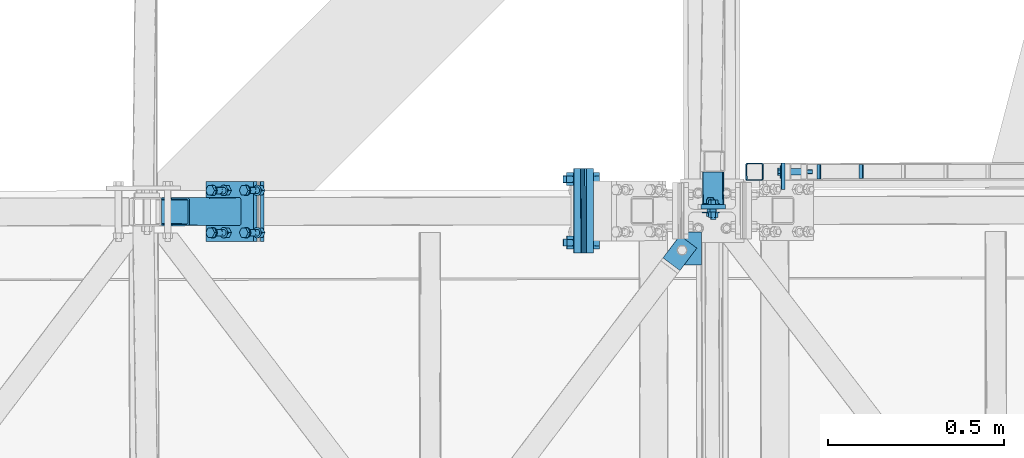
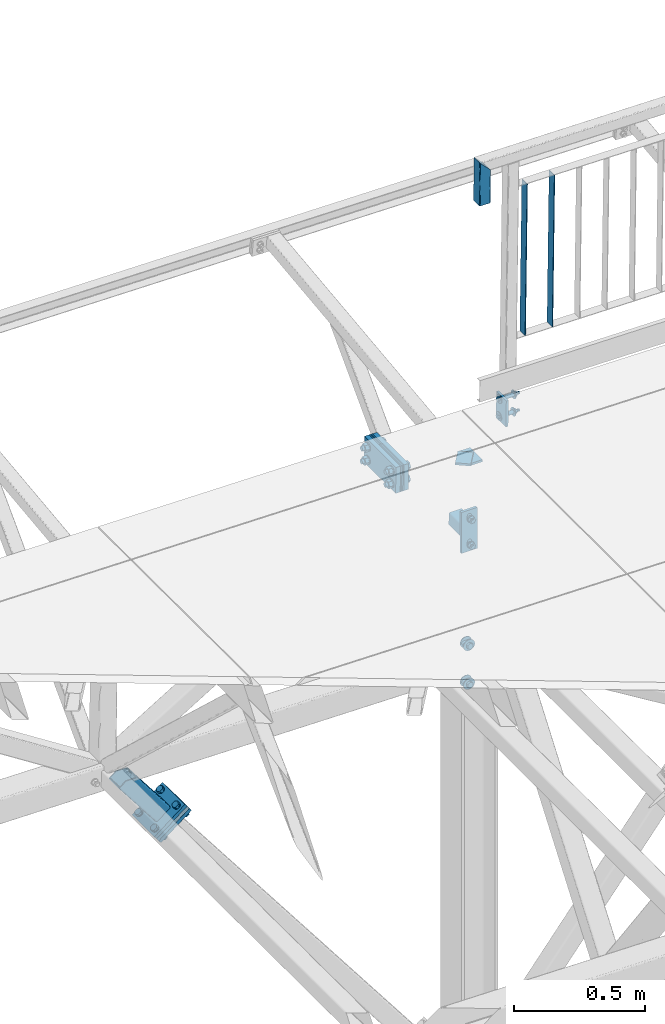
# One storey, part 105 of 169: 16 discrete accessories, 5 mechanical fasteners, 9 elements without a shape of their own.
"""IFC2X3 building model written with IfcOpenShell, lengths in millimetres."""

from ifc_helpers import new_model, si_unit, frame, frame_2d, origin_with_axes, origin_2d_with_axis, place, context, subcontext, project, spatial, polyline, circle_curve, parameter, trimmed, segment, composite_curve, rectangle, hollow_rectangle, circle, outline, extrude, clip, halfspace, source, transform, mapped, material, type_object, element, aggregate, save


model = new_model("IFC2X3")

# Units and contexts
model_context = context("Model", 3, precision=1e-05, world=origin_with_axes())
body_context = subcontext(model_context, "Body", "Model", "MODEL_VIEW")
ifc_project = project(units=[si_unit("LENGTHUNIT", "METRE", prefix="MILLI"), si_unit("AREAUNIT", "SQUARE_METRE"), si_unit("VOLUMEUNIT", "CUBIC_METRE"), si_unit("MASSUNIT", "GRAM", prefix="KILO"), si_unit("TIMEUNIT", "SECOND"), si_unit("PLANEANGLEUNIT", "RADIAN"), si_unit("SOLIDANGLEUNIT", "STERADIAN"), si_unit("THERMODYNAMICTEMPERATUREUNIT", "DEGREE_CELSIUS"), si_unit("LUMINOUSINTENSITYUNIT", "LUMEN")], contexts=[model_context])

# Site, building, storey
site_placement = place(None, origin_with_axes())
site = spatial("IfcSite", under=ifc_project, at=site_placement, Name="Undefined", CompositionType="ELEMENT")
building_placement = place(site_placement, origin_with_axes())
building = spatial("IfcBuilding", under=site, at=building_placement, Name="Undefined", CompositionType="ELEMENT")
storey_placement = place(building_placement, origin_with_axes())
storey = spatial("IfcBuildingStorey", under=building, at=storey_placement, Name="Undefined", CompositionType="ELEMENT", Elevation=0.0)

# Assembly, discrete accessory
assembly_1_placement = place(storey_placement, origin_with_axes())
assembly_1 = element("IfcElementAssembly", 1, at=assembly_1_placement, inside=storey, Name="Steel Assembly", AssemblyPlace="NOTDEFINED", PredefinedType="RIGID_FRAME")
ifc_material_1 = material(Name="STEEL/S355")
discrete_accessory_type_1 = type_object("IfcDiscreteAccessoryType", Name="BLACHA")
discrete_accessory_1_placement = place(assembly_1_placement, frame((5760.12307454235, 2135.75953756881, 13880.9893053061), z_axis=(-0.999917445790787, -0.00186469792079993, 0.0127131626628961), x_axis=(-0.0018648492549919, 0.999998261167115, -4.2996762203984e-08)))
discrete_accessory_1 = element("IfcDiscreteAccessory", 2, at=discrete_accessory_1_placement, type_object=discrete_accessory_type_1, material=ifc_material_1, Name="BLACHA", ObjectType="BL5*120", context=body_context, shape_type="SweptSolid", body=[
    extrude(outline(polyline([(239.999999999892, 59.9999999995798), (239.999999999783, -60.0000000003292), (-5.35749222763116e-11, -59.9999999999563), (5.3567816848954e-11, 59.9999999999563), (239.999999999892, 59.9999999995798)])), frame((6.80888809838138e-19, -2.87858853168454e-21, -2.49999999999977), z_axis=(0.0, 0.0, 1.0), x_axis=(1.0, 0.0, 0.0)), (0.0, 0.0, 1.0), 5.0),
])
aggregate(assembly_1, [discrete_accessory_1])

assembly_2_placement = place(storey_placement, origin_with_axes())
assembly_2 = element("IfcElementAssembly", 3, at=assembly_2_placement, inside=storey, Name="Steel Assembly", AssemblyPlace="NOTDEFINED", PredefinedType="RIGID_FRAME")
discrete_accessory_2_placement = place(assembly_2_placement, frame((5755.12348731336, 2135.75021407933, 13881.0528711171), z_axis=(-0.999917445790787, -0.00186469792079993, 0.0127131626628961), x_axis=(-0.0018648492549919, 0.999998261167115, -4.2996762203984e-08)))
discrete_accessory_2 = element("IfcDiscreteAccessory", 4, at=discrete_accessory_2_placement, type_object=discrete_accessory_type_1, material=ifc_material_1, Name="BLACHA", ObjectType="BL5*120", context=body_context, shape_type="SweptSolid", body=[
    extrude(outline(polyline([(239.999999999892, 59.9999999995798), (239.999999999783, -60.0000000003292), (-5.35749222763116e-11, -59.9999999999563), (5.3567816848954e-11, 59.9999999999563), (239.999999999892, 59.9999999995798)])), frame((6.80888809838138e-19, -2.87858853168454e-21, -2.49999999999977), z_axis=(0.0, 0.0, 1.0), x_axis=(1.0, 0.0, 0.0)), (0.0, 0.0, 1.0), 5.0),
])
aggregate(assembly_2, [discrete_accessory_2])

assembly_3_placement = place(storey_placement, origin_with_axes())
assembly_3 = element("IfcElementAssembly", 5, at=assembly_3_placement, inside=storey, Name="Steel Assembly", AssemblyPlace="NOTDEFINED", PredefinedType="RIGID_FRAME")
discrete_accessory_3_placement = place(assembly_3_placement, frame((5750.12390008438, 2135.74089058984, 13881.116436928), z_axis=(-0.999917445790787, -0.00186469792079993, 0.0127131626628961), x_axis=(-0.0018648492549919, 0.999998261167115, -4.2996762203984e-08)))
discrete_accessory_3 = element("IfcDiscreteAccessory", 6, at=discrete_accessory_3_placement, type_object=discrete_accessory_type_1, material=ifc_material_1, Name="BLACHA", ObjectType="BL5*120", context=body_context, shape_type="SweptSolid", body=[
    extrude(outline(polyline([(239.999999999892, 59.9999999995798), (239.999999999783, -60.0000000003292), (-5.35749222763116e-11, -59.9999999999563), (5.3567816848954e-11, 59.9999999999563), (239.999999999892, 59.9999999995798)])), frame((6.80888809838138e-19, -2.87858853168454e-21, -2.49999999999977), z_axis=(0.0, 0.0, 1.0), x_axis=(1.0, 0.0, 0.0)), (0.0, 0.0, 1.0), 5.0),
])
aggregate(assembly_3, [discrete_accessory_3])

assembly_4_placement = place(storey_placement, origin_with_axes())
assembly_4 = element("IfcElementAssembly", 7, at=assembly_4_placement, inside=storey, Name="Steel Assembly", AssemblyPlace="NOTDEFINED", PredefinedType="RIGID_FRAME")
discrete_accessory_4_placement = place(assembly_4_placement, frame((5736.62501456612, 2135.71571716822, 13881.2880646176), z_axis=(-0.999917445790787, -0.00186469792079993, 0.0127131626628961), x_axis=(-0.0018648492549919, 0.999998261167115, -4.2996762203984e-08)))
discrete_accessory_4 = element("IfcDiscreteAccessory", 8, at=discrete_accessory_4_placement, type_object=discrete_accessory_type_1, material=ifc_material_1, Name="BLACHA", ObjectType="BL20*120", context=body_context, shape_type="SweptSolid", body=[
    extrude(outline(polyline([(239.999999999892, 59.9999999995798), (239.999999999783, -60.0000000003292), (-5.35749222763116e-11, -59.9999999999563), (5.3567816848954e-11, 59.9999999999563), (239.999999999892, 59.9999999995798)])), frame((-4.54746113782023e-13, 1.81900675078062e-12, -9.99999999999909), z_axis=(0.0, 0.0, 1.0), x_axis=(1.0, 0.0, 0.0)), (0.0, 0.0, 1.0), 20.0),
])

# Assembly, discrete accessories
assembly_5_placement = place(storey_placement, origin_with_axes())
assembly_5 = element("IfcElementAssembly", 9, at=assembly_5_placement, inside=storey, Name="Steel Assembly", AssemblyPlace="NOTDEFINED", PredefinedType="RIGID_FRAME")
discrete_accessory_5_placement = place(assembly_5_placement, frame((5772.62204278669, 2135.78274948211, 13880.8303914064), z_axis=(-0.999917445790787, -0.00186469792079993, 0.0127131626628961), x_axis=(-0.0018648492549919, 0.999998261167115, -4.2996762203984e-08)))
discrete_accessory_5 = element("IfcDiscreteAccessory", 10, at=discrete_accessory_5_placement, type_object=discrete_accessory_type_1, material=ifc_material_1, Name="BLACHA", ObjectType="BL20*120", context=body_context, shape_type="SweptSolid", body=[
    extrude(outline(polyline([(239.999999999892, 59.9999999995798), (239.999999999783, -60.0000000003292), (-5.35749222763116e-11, -59.9999999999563), (5.3567816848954e-11, 59.9999999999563), (239.999999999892, 59.9999999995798)])), frame((-4.54746113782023e-13, 1.81900675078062e-12, -9.99999999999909), z_axis=(0.0, 0.0, 1.0), x_axis=(1.0, 0.0, 0.0)), (0.0, 0.0, 1.0), 20.0),
])
ifc_material_2 = material(Name="STEEL/S235")
discrete_accessory_6_placement = place(assembly_5_placement, frame((6321.20954306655, 2316.80609626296, 13873.8512579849), z_axis=(0.9999174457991, 0.00186469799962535, -0.0127131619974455), x_axis=(-0.0018648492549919, 0.999998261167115, -4.2996762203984e-08)))
discrete_accessory_6 = element("IfcDiscreteAccessory", 11, at=discrete_accessory_6_placement, type_object=discrete_accessory_type_1, material=ifc_material_2, Name="BLACHA", ObjectType="BL10*120", context=body_context, shape_type="SweptSolid", body=[
    extrude(outline(polyline([(-5.35749222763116e-11, -59.9999999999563), (5.3567816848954e-11, 59.9999999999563), (75.0000002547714, 59.9999999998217), (75.0000002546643, -60.0000000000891), (-5.35749222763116e-11, -59.9999999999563)])), frame((-1.81898926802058e-12, -1.18000176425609e-16, -5.00000000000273), z_axis=(0.0, 0.0, 1.0), x_axis=(1.0, 0.0, 0.0)), (0.0, 0.0, 1.0), 10.0),
])

# Assembly, discrete accessory
assembly_6_placement = place(storey_placement, origin_with_axes())
assembly_6 = element("IfcElementAssembly", 12, at=assembly_6_placement, inside=storey, Name="Steel Assembly", AssemblyPlace="NOTDEFINED", PredefinedType="RIGID_FRAME")
discrete_accessory_7_placement = place(assembly_6_placement, frame((6076.07167206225, 2150.07360418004, 13876.9718297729), z_axis=(0.012713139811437, 2.3750999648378e-05, 0.999919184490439), x_axis=(-0.797602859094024, 0.603097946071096, 0.0101265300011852)))
discrete_accessory_7 = element("IfcDiscreteAccessory", 13, at=discrete_accessory_7_placement, type_object=discrete_accessory_type_1, material=ifc_material_2, Name="BLACHA", ObjectType="BL10*60", context=body_context, shape_type="SweptSolid", body=[
    extrude(outline(polyline([(0.0, 0.0), (60.0000000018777, -8.8220986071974e-11), (60.0000000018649, 79.9999999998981), (1.40171323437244e-08, 80.0000000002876), (0.0, 0.0)])), frame((-1.81898926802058e-12, -1.18000176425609e-16, -5.00000000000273), z_axis=(0.0, 0.0, 1.0), x_axis=(1.0, 0.0, 0.0)), (0.0, 0.0, 1.0), 10.0),
])
aggregate(assembly_6, [discrete_accessory_7])

# Discrete accessory
discrete_accessory_8_placement = place(assembly_5_placement, frame((6088.82538345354, 2196.37252537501, 13866.8077689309), z_axis=(0.012713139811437, 2.3750999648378e-05, 0.999919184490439), x_axis=(-0.999917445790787, -0.00186469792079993, 0.0127131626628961)))
discrete_accessory_8 = element("IfcDiscreteAccessory", 14, at=discrete_accessory_8_placement, type_object=discrete_accessory_type_1, material=ifc_material_1, Name="BLACHA", ObjectType="BL10*97", context=body_context, shape_type="SweptSolid", body=[
    extrude(outline(polyline([(0.0, 0.0), (53.1705589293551, 3.31783667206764e-09), (97.0357360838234, 57.7924690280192), (49.2432670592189, 94.0675277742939), (-7.0152964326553e-08, 94.067527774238), (0.0, 0.0)])), frame((-1.81898926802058e-12, -1.18000176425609e-16, -5.00000000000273), z_axis=(0.0, 0.0, 1.0), x_axis=(1.0, 0.0, 0.0)), (0.0, 0.0, 1.0), 10.0),
])

aggregate(assembly_5, [discrete_accessory_5, discrete_accessory_6, discrete_accessory_8])

# Assembly, discrete accessory
assembly_7_placement = place(storey_placement, origin_with_axes())
assembly_7 = element("IfcElementAssembly", 15, at=assembly_7_placement, inside=storey, Name="Steel Assembly", AssemblyPlace="NOTDEFINED", PredefinedType="RIGID_FRAME")
discrete_accessory_9_placement = place(assembly_7_placement, frame((6157.71281436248, 2267.50113417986, 13434.2395274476), z_axis=(-0.0018648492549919, 0.999998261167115, -4.2996762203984e-08), x_axis=(-0.99999826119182, -0.00186483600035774, -1.66000011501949e-07)))
discrete_accessory_9 = element("IfcDiscreteAccessory", 16, at=discrete_accessory_9_placement, type_object=discrete_accessory_type_1, material=ifc_material_1, Name="BLACHA", ObjectType="BL12*190", context=body_context, shape_type="SweptSolid", body=[
    extrude(outline(polyline([(69.9999999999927, -94.99999999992), (8.18545231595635e-11, -95.0), (-8.18545231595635e-11, 95.0000000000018), (69.9999999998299, 95.0000000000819), (69.9999999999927, -94.99999999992)])), frame((-1.81898942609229e-12, -1.81898940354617e-12, -5.99999999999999), z_axis=(0.0, 0.0, 1.0), x_axis=(1.0, 0.0, 0.0)), (0.0, 0.0, 1.0), 12.0),
])

assembly_8_placement = place(storey_placement, origin_with_axes())
assembly_8 = element("IfcElementAssembly", 17, at=assembly_8_placement, inside=storey, Name="Steel Assembly", AssemblyPlace="NOTDEFINED", PredefinedType="RIGID_FRAME")
discrete_accessory_10_placement = place(assembly_8_placement, frame((4842.73454791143, 2254.04886288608, 12641.7648411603), z_axis=(-0.0018648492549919, 0.999998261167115, -4.2996762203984e-08), x_axis=(-0.792353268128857, -0.00147761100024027, -0.610060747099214)))
discrete_accessory_10 = element("IfcDiscreteAccessory", 18, at=discrete_accessory_10_placement, type_object=discrete_accessory_type_1, material=ifc_material_1, Name="BLACHA", ObjectType="BL16*170", context=body_context, shape_type="SweptSolid", body=[
    extrude(rectangle(XDim=16.0, YDim=170.0, at=origin_2d_with_axis()), frame((169.999999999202, 0.0, -3.62691994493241e-12), z_axis=(-1.0, -3.46944695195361e-18, -1.38777878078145e-17), x_axis=(1.73472347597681e-18, -1.0, 0.0)), (0.0, 0.0, 1.0), 170.0),
])

# Discrete accessory
discrete_accessory_11_placement = place(assembly_4_placement, frame((4823.2126382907, 2254.01245721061, 12667.1201900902), z_axis=(-0.0018648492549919, 0.999998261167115, -4.2996762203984e-08), x_axis=(-0.792353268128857, -0.00147761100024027, -0.610060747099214)))
discrete_accessory_11 = element("IfcDiscreteAccessory", 19, at=discrete_accessory_11_placement, type_object=discrete_accessory_type_1, material=ifc_material_1, Name="BLACHA", ObjectType="BL16*170", context=body_context, shape_type="SweptSolid", body=[
    extrude(rectangle(XDim=16.0, YDim=170.0, at=origin_2d_with_axis()), frame((169.999999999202, 0.0, -3.62691994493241e-12), z_axis=(-1.0, -3.46944695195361e-18, -1.38777878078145e-17), x_axis=(1.73472347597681e-18, -1.0, 0.0)), (0.0, 0.0, 1.0), 170.0),
])

discrete_accessory_type_2 = type_object("IfcDiscreteAccessoryType", Name="BEAM")
discrete_accessory_12_placement = place(assembly_7_placement, frame((6122.72682428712, 2259.95608282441, 13434.2395236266), z_axis=(0.012713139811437, 2.3750999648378e-05, 0.999919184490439), x_axis=(-0.0018648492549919, 0.999998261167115, -4.2996762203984e-08)))
discrete_accessory_12 = element("IfcDiscreteAccessory", 20, at=discrete_accessory_12_placement, type_object=discrete_accessory_type_2, material=ifc_material_1, Name="BEAM", ObjectType="SHS60*3", context=body_context, shape_type="Clipping", body=[
    clip(clip(extrude(hollow_rectangle(XDim=60.0, YDim=60.0, WallThickness=3.0, InnerFilletRadius=3.0, OuterFilletRadius=6.0, at=origin_2d_with_axis()), frame((106.128787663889, -2.30130124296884e-17, 1.81898940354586e-12), z_axis=(-1.0, -3.46944695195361e-18, -1.38777878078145e-17), x_axis=(1.73472347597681e-18, -1.0, 0.0)), (0.0, 0.0, 1.0), 92.65), halfspace(frame((106.128787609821, -3.69114695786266e-06, 999.999999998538), z_axis=(-1.0, -3.46944695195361e-18, -1.38777878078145e-17), x_axis=(1.73472347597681e-18, -1.0, 0.0)), True)), halfspace(frame((13.4797941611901, -29.9951511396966, 0.381368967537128), z_axis=(1.0, 0.0, 0.0), x_axis=(-8.56904339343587e-08, 0.0127133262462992, 0.999919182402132)), True)),
])

discrete_accessory_13_placement = place(assembly_4_placement, frame((4761.04811782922, 2253.89653041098, 12608.5300120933), z_axis=(-0.792353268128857, -0.00147761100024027, -0.610060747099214), x_axis=(-0.610059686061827, -0.00113766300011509, 0.792354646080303)))
discrete_accessory_13 = element("IfcDiscreteAccessory", 21, at=discrete_accessory_13_placement, type_object=discrete_accessory_type_2, material=ifc_material_1, Name="BEAM", ObjectType="K80/4", context=body_context, shape_type="Clipping", body=[
    clip(clip(extrude(hollow_rectangle(XDim=80.0, YDim=80.0, WallThickness=4.0, InnerFilletRadius=4.0, OuterFilletRadius=8.0, at=origin_2d_with_axis()), frame((286.86430412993, 2.94274002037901e-17, -1.59241677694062e-14), z_axis=(-1.0, -3.46944695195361e-18, -1.38777878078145e-17), x_axis=(1.73472347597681e-18, -1.0, 0.0)), (0.0, 0.0, 1.0), 270.36), halfspace(frame((936.355434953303, -2.59505804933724e-06, 821.739897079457), z_axis=(-0.784534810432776, -4.30963629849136e-08, 0.620084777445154), x_axis=(1.73472347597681e-18, -1.0, 0.0)), True)), halfspace(frame((16.5000003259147, 3.71528585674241e-10, -1000.00000000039), z_axis=(1.0, 0.0, 0.0), x_axis=(1.73472347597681e-18, -1.0, 0.0)), True)),
])

# Assembly, discrete accessories, mechanical fastener
assembly_9_placement = place(storey_placement, origin_with_axes())
assembly_9 = element("IfcElementAssembly", 22, at=assembly_9_placement, inside=storey, Name="Steel Assembly", AssemblyPlace="NOTDEFINED", PredefinedType="RIGID_FRAME")
discrete_accessory_type_3 = type_object("IfcDiscreteAccessoryType", Name="PORĘCZ")
discrete_accessory_14_placement = place(assembly_9_placement, frame((6429.20306601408, 2367.00761974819, 15032.570771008), z_axis=(0.00186484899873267, -0.999998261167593, 4.28757666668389e-08), x_axis=(-0.012713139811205, -2.37511238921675e-05, -0.999919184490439)))
discrete_accessory_14 = element("IfcDiscreteAccessory", 23, at=discrete_accessory_14_placement, type_object=discrete_accessory_type_3, material=ifc_material_2, Name="PORĘCZ", ObjectType="BL40*3", context=body_context, shape_type="Clipping", body=[
    clip(clip(extrude(rectangle(XDim=3.0, YDim=40.0, at=origin_2d_with_axis()), frame((848.500000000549, 1.47191286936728e-15, -8.89750592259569e-16), z_axis=(-1.0, -3.46944695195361e-18, -1.38777878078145e-17), x_axis=(1.73472347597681e-18, -1.0, 0.0)), (0.0, 0.0, 1.0), 702.0), halfspace(frame((848.499999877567, 4.522007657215e-09, 1000.00000000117), z_axis=(-1.0, -3.46944695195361e-18, -1.38777878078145e-17), x_axis=(1.73472347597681e-18, -1.0, 0.0)), True)), halfspace(frame((146.499999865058, 4.97311702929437e-09, 1000.00000000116), z_axis=(1.0, 0.0, 0.0), x_axis=(0.0, 1.0, 0.0)), True)),
])
discrete_accessory_15_placement = place(assembly_9_placement, frame((6549.1931595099, 2367.23138350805, 15031.0451915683), z_axis=(0.00186484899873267, -0.999998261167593, 4.28757666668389e-08), x_axis=(-0.012713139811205, -2.37511238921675e-05, -0.999919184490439)))
discrete_accessory_15 = element("IfcDiscreteAccessory", 24, at=discrete_accessory_15_placement, type_object=discrete_accessory_type_3, material=ifc_material_2, Name="PORĘCZ", ObjectType="BL40*3", context=body_context, shape_type="Clipping", body=[
    clip(clip(extrude(rectangle(XDim=3.0, YDim=40.0, at=origin_2d_with_axis()), frame((848.500000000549, 1.47191286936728e-15, -8.89750592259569e-16), z_axis=(-1.0, -3.46944695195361e-18, -1.38777878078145e-17), x_axis=(1.73472347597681e-18, -1.0, 0.0)), (0.0, 0.0, 1.0), 702.0), halfspace(frame((848.499999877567, 4.522007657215e-09, 1000.00000000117), z_axis=(-1.0, -3.46944695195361e-18, -1.38777878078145e-17), x_axis=(1.73472347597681e-18, -1.0, 0.0)), True)), halfspace(frame((146.499999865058, 4.97311702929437e-09, 1000.00000000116), z_axis=(1.0, 0.0, 0.0), x_axis=(0.0, 1.0, 0.0)), True)),
])
discrete_accessory_16_placement = place(assembly_9_placement, frame((6240.87138568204, 2366.65640906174, 15034.9652598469), z_axis=(0.00186484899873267, -0.999998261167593, 4.28757666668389e-08), x_axis=(-0.012713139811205, -2.37511238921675e-05, -0.999919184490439)))
discrete_accessory_16 = element("IfcDiscreteAccessory", 25, at=discrete_accessory_16_placement, type_object=discrete_accessory_type_3, material=ifc_material_2, Name="PORĘCZ", ObjectType="SHS50*3", context=body_context, shape_type="Clipping", body=[
    clip(extrude(hollow_rectangle(XDim=50.0, YDim=50.0, WallThickness=3.0, InnerFilletRadius=3.0, OuterFilletRadius=6.0, at=origin_2d_with_axis()), frame((174.999999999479, 0.0, -8.8846677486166e-16), z_axis=(-1.0, -3.46944695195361e-18, -1.38777878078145e-17), x_axis=(1.73472347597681e-18, -1.0, 0.0)), (0.0, 0.0, 1.0), 201.53), halfspace(frame((-25.0000007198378, -25.0000000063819, 5.15287482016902e-07), z_axis=(-0.707106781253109, 0.707106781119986, 1.80100347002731e-10), x_axis=(-2.54700353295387e-10, 0.0, -1.0)), False)),
])
ifc_material_3 = material(Name="Undefined")
discrete_accessory_type_4 = type_object("IfcDiscreteAccessoryType", Name="Bolt assembly")
shared_shape_1 = source(origin_with_axes(), body_context, "Body", "SweptSolid", [
    extrude(circle(Radius=9.0, at=origin_2d_with_axis()), frame((0.0, -4.90000000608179, 0.0), z_axis=(0.0, 1.0, 0.0), x_axis=(1.0, 0.0, 0.0)), (0.0, 0.0, 1.0), 10.0),
    extrude(circle(Radius=9.0, at=origin_2d_with_axis()), frame((0.0, 4.89999999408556, 0.0), z_axis=(0.0, 1.0, 0.0), x_axis=(1.0, 0.0, 0.0)), (0.0, 0.0, 1.0), 50.1),
    extrude(outline(polyline([(10.39230484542, 0.0), (5.19615242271, 9.00000000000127), (-5.19615242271, 9.00000000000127), (-10.39230484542, 0.0), (-5.19615242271, -9.00000000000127), (5.19615242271, -9.00000000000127), (10.39230484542, 0.0)])), frame((0.0, -15.5000000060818, 0.0), z_axis=(0.0, 1.0, 0.0), x_axis=(1.0, 0.0, 0.0)), (0.0, 0.0, 1.0), 7.5),
    extrude(circle(Radius=6.0, at=origin_2d_with_axis()), frame((0.0, -8.00000000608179, 0.0), z_axis=(0.0, 1.0, 0.0), x_axis=(1.0, 0.0, 0.0)), (0.0, 0.0, 1.0), 90.0),
    extrude(circle(Radius=18.5, at=origin_2d_with_axis()), frame((0.0, -8.00000000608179, 0.0), z_axis=(0.0, 1.0, 0.0), x_axis=(1.0, 0.0, 0.0)), (0.0, 0.0, 1.0), 3.0),
    extrude(circle(Radius=18.5, at=origin_2d_with_axis()), frame((0.0, 54.9999999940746, 0.0), z_axis=(0.0, 1.0, 0.0), x_axis=(1.0, 0.0, 0.0)), (0.0, 0.0, 1.0), 3.0),
    extrude(outline(polyline([(10.96965511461, 0.0), (5.484827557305, 9.50000000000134), (-5.484827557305, 9.50000000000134), (-10.96965511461, 0.0), (-5.484827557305, -9.50000000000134), (5.484827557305, -9.50000000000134), (10.96965511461, 0.0)])), frame((0.0, 57.9999999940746, 0.0), z_axis=(0.0, 1.0, 0.0), x_axis=(1.0, 0.0, 0.0)), (0.0, 0.0, 1.0), 10.0),
])
mechanical_fastener_1_placement = place(assembly_9_placement, frame((6321.12265719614, 2366.8060160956, 13874.3512154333), z_axis=(0.012712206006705, 0.000523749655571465, 0.999919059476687), x_axis=(0.00187120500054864, -0.999998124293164, 0.00050000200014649)))
mechanical_fastener_1 = element("IfcMechanicalFastener", 26, at=mechanical_fastener_1_placement, type_object=discrete_accessory_type_4, material=ifc_material_3, Name="Bolt assembly", NominalDiameter=12.0, NominalLength=90.0, context=body_context, shape_type="MappedRepresentation", body=[
    mapped(shared_shape_1, transform((-1.15463194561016e-14, 5.45696821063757e-11, -39.9999999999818))),
    mapped(shared_shape_1, transform((8.88178419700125e-15, -5.54791768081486e-11, 39.99999999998))),
])
aggregate(assembly_9, [mechanical_fastener_1, discrete_accessory_14, discrete_accessory_15, discrete_accessory_16])

# Mechanical fastener
shared_shape_2 = source(origin_with_axes(), body_context, "Body", "SweptSolid", [
    extrude(circle(Radius=11.5, at=origin_2d_with_axis()), frame((0.0, -27.9000000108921, 0.0), z_axis=(0.0, 1.0, 0.0), x_axis=(1.0, 0.0, 0.0)), (0.0, 0.0, 1.0), 20.0),
    extrude(circle(Radius=11.5, at=origin_2d_with_axis()), frame((0.0, 7.89999997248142, 0.0), z_axis=(0.0, 1.0, 0.0), x_axis=(1.0, 0.0, 0.0)), (0.0, 0.0, 1.0), 20.1),
    extrude(circle(Radius=11.5, at=origin_2d_with_axis()), frame((0.0, 1.99999997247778, 0.0), z_axis=(0.0, 1.0, 0.0), x_axis=(1.0, 0.0, 0.0)), (0.0, 0.0, 1.0), 5.0),
    extrude(circle(Radius=11.5, at=origin_2d_with_axis()), frame((0.0, -3.00000607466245, 0.0), z_axis=(0.0, 1.0, 0.0), x_axis=(1.0, 0.0, 0.0)), (0.0, 0.0, 1.0), 5.0),
    extrude(circle(Radius=11.5, at=origin_2d_with_axis()), frame((0.0, -8.00000000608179, 0.0), z_axis=(0.0, 1.0, 0.0), x_axis=(1.0, 0.0, 0.0)), (0.0, 0.0, 1.0), 5.0),
    extrude(outline(polyline([(18.47520861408, 0.0), (9.23760430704, 16.0000000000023), (-9.23760430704, 16.0000000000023), (-18.47520861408, 0.0), (-9.23760430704, -16.0000000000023), (9.23760430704, -16.0000000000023), (18.47520861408, 0.0)])), frame((0.0, -45.0000000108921, 0.0), z_axis=(0.0, 1.0, 0.0), x_axis=(1.0, 0.0, 0.0)), (0.0, 0.0, 1.0), 13.0),
    extrude(circle(Radius=10.0, at=origin_2d_with_axis()), frame((0.0, -32.0000000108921, 0.0), z_axis=(0.0, 1.0, 0.0), x_axis=(1.0, 0.0, 0.0)), (0.0, 0.0, 1.0), 90.0),
    extrude(circle(Radius=18.5, at=origin_2d_with_axis()), frame((0.0, -32.0000000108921, 0.0), z_axis=(0.0, 1.0, 0.0), x_axis=(1.0, 0.0, 0.0)), (0.0, 0.0, 1.0), 4.0),
    extrude(circle(Radius=18.5, at=origin_2d_with_axis()), frame((0.0, 27.9999999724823, 0.0), z_axis=(0.0, 1.0, 0.0), x_axis=(1.0, 0.0, 0.0)), (0.0, 0.0, 1.0), 4.0),
    extrude(outline(polyline([(18.47520861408, 0.0), (9.23760430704, 16.0000000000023), (-9.23760430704, 16.0000000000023), (-18.47520861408, 0.0), (-9.23760430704, -16.0000000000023), (9.23760430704, -16.0000000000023), (18.47520861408, 0.0)])), frame((0.0, 31.9999999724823, 0.0), z_axis=(0.0, 1.0, 0.0), x_axis=(1.0, 0.0, 0.0)), (0.0, 0.0, 1.0), 16.0),
])
mechanical_fastener_2_placement = place(assembly_4_placement, frame((5754.2878557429, 2315.74896874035, 13881.0592199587), z_axis=(-0.012713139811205, -2.37511238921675e-05, -0.999919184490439), x_axis=(0.00186484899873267, -0.999998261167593, 4.28757666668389e-08)))
mechanical_fastener_2 = element("IfcMechanicalFastener", 27, at=mechanical_fastener_2_placement, type_object=discrete_accessory_type_4, material=ifc_material_3, Name="Bolt assembly", NominalDiameter=20.0, NominalLength=90.0, context=body_context, shape_type="MappedRepresentation", body=[
    mapped(shared_shape_2, transform((-29.9999999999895, 3.63797880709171e-12, -29.9999999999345))),
    mapped(shared_shape_2, transform((-30.0000000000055, 9.09494701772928e-13, 29.9999999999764))),
    mapped(shared_shape_2, transform((149.999999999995, -9.09494701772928e-12, -30.0000000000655))),
    mapped(shared_shape_2, transform((149.99999999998, -1.18234311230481e-11, 29.9999999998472))),
])

aggregate(assembly_4, [mechanical_fastener_2, discrete_accessory_4, discrete_accessory_11, discrete_accessory_13])

shared_shape_3 = source(origin_with_axes(), body_context, "Body", "SweptSolid", [
    extrude(circle(Radius=9.5, at=origin_2d_with_axis()), frame((0.0, -0.100000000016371, 0.0), z_axis=(0.0, 1.0, 0.0), x_axis=(1.0, 0.0, 0.0)), (0.0, 0.0, 1.0), 8.1),
    extrude(outline(composite_curve([segment(polyline([(9.5, 10.0), (9.5, -10.0)]), True, "CONTINUOUS"), segment(trimmed(circle_curve(frame_2d((0.0, -10.0), x_axis=(1.0, 0.0)), 9.5), [parameter(0.0)], [parameter(3.14159265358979)], False, "PARAMETER"), True, "CONTINUOUS"), segment(polyline([(-9.5, -10.0), (-9.5, 10.0)]), True, "CONTINUOUS"), segment(trimmed(circle_curve(frame_2d((0.0, 10.0), x_axis=(-1.0, 0.0)), 9.5), [parameter(0.0)], [parameter(3.14159265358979)], False, "PARAMETER"), True, "DISCONTINUOUS")], self_intersect=False)), frame((0.0, -12.9000000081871, 0.0), z_axis=(0.0, 1.0, 0.0), x_axis=(1.0, 0.0, 0.0)), (0.0, 0.0, 1.0), 12.0),
    extrude(outline(polyline([(13.85640646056, 0.0), (6.92820323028, 12.0000000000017), (-6.92820323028, 12.0000000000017), (-13.85640646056, 0.0), (-6.92820323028, -12.0000000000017), (6.92820323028, -12.0000000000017), (13.85640646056, 0.0)])), frame((0.0, -26.0000000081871, 0.0), z_axis=(0.0, 1.0, 0.0), x_axis=(1.0, 0.0, 0.0)), (0.0, 0.0, 1.0), 10.0),
    extrude(circle(Radius=8.0, at=origin_2d_with_axis()), frame((0.0, -16.0000000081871, 0.0), z_axis=(0.0, 1.0, 0.0), x_axis=(1.0, 0.0, 0.0)), (0.0, 0.0, 1.0), 45.0),
    extrude(circle(Radius=15.0, at=origin_2d_with_axis()), frame((0.0, -16.0000000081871, 0.0), z_axis=(0.0, 1.0, 0.0), x_axis=(1.0, 0.0, 0.0)), (0.0, 0.0, 1.0), 3.0),
    extrude(circle(Radius=15.0, at=origin_2d_with_axis()), frame((0.0, 7.99999999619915, 0.0), z_axis=(0.0, 1.0, 0.0), x_axis=(1.0, 0.0, 0.0)), (0.0, 0.0, 1.0), 3.0),
    extrude(outline(polyline([(13.85640646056, 0.0), (6.92820323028, 12.0000000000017), (-6.92820323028, 12.0000000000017), (-13.85640646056, 0.0), (-6.92820323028, -12.0000000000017), (6.92820323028, -12.0000000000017), (13.85640646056, 0.0)])), frame((0.0, 10.9999999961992, 0.0), z_axis=(0.0, 1.0, 0.0), x_axis=(1.0, 0.0, 0.0)), (0.0, 0.0, 1.0), 13.0),
])
mechanical_fastener_3_placement = place(assembly_7_placement, frame((6092.72840595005, 2260.37993480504, 13434.2395166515), z_axis=(-2.54700353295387e-10, 0.0, -1.0), x_axis=(0.99999826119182, 0.0018648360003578, 1.65999988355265e-07)))
mechanical_fastener_3 = element("IfcMechanicalFastener", 28, at=mechanical_fastener_3_placement, type_object=discrete_accessory_type_4, material=ifc_material_3, Name="Bolt assembly", NominalDiameter=16.0, NominalLength=45.0, context=body_context, shape_type="MappedRepresentation", body=[
    mapped(shared_shape_3, transform((29.9975757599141, 2.51958454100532e-11, -60.00000000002))),
    mapped(shared_shape_3, transform((29.9975757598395, -5.59055024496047e-11, 59.9999999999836))),
])

shared_shape_4 = source(origin_with_axes(), body_context, "Body", "SweptSolid", [
    extrude(circle(Radius=9.5, at=origin_2d_with_axis()), frame((0.0, -7.89999999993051, 0.0), z_axis=(0.0, 1.0, 0.0), x_axis=(1.0, 0.0, 0.0)), (0.0, 0.0, 1.0), 8.0),
    extrude(outline(composite_curve([segment(polyline([(9.5, 10.0), (9.5, -10.0)]), True, "CONTINUOUS"), segment(trimmed(circle_curve(frame_2d((0.0, -10.0), x_axis=(1.0, 0.0)), 9.5), [parameter(0.0)], [parameter(3.14159265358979)], False, "PARAMETER"), True, "CONTINUOUS"), segment(polyline([(-9.5, -10.0), (-9.5, 10.0)]), True, "CONTINUOUS"), segment(trimmed(circle_curve(frame_2d((0.0, 10.0), x_axis=(-1.0, 0.0)), 9.5), [parameter(0.0)], [parameter(3.14159265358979)], False, "PARAMETER"), True, "DISCONTINUOUS")], self_intersect=False)), frame((0.0, 0.900000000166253, 0.0), z_axis=(0.0, 1.0, 0.0), x_axis=(1.0, 0.0, 0.0)), (0.0, 0.0, 1.0), 12.1),
    extrude(outline(polyline([(13.85640646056, 0.0), (6.92820323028, 12.0000000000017), (-6.92820323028, 12.0000000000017), (-13.85640646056, 0.0), (-6.92820323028, -12.0000000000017), (6.92820323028, -12.0000000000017), (13.85640646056, 0.0)])), frame((0.0, -20.9999999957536, 0.0), z_axis=(0.0, 1.0, 0.0), x_axis=(1.0, 0.0, 0.0)), (0.0, 0.0, 1.0), 10.0),
    extrude(circle(Radius=8.0, at=origin_2d_with_axis()), frame((0.0, -10.9999999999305, 0.0), z_axis=(0.0, 1.0, 0.0), x_axis=(1.0, 0.0, 0.0)), (0.0, 0.0, 1.0), 45.0),
    extrude(circle(Radius=25.0, at=origin_2d_with_axis()), frame((0.0, -10.9999999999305, 0.0), z_axis=(0.0, 1.0, 0.0), x_axis=(1.0, 0.0, 0.0)), (0.0, 0.0, 1.0), 3.0),
    extrude(circle(Radius=25.0, at=origin_2d_with_axis()), frame((0.0, 13.0000000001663, 0.0), z_axis=(0.0, 1.0, 0.0), x_axis=(1.0, 0.0, 0.0)), (0.0, 0.0, 1.0), 3.0),
    extrude(outline(polyline([(13.85640646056, 0.0), (6.92820323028, 12.0000000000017), (-6.92820323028, 12.0000000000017), (-13.85640646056, 0.0), (-6.92820323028, -12.0000000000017), (6.92820323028, -12.0000000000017), (13.85640646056, 0.0)])), frame((0.0, 16.0000000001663, 0.0), z_axis=(0.0, 1.0, 0.0), x_axis=(1.0, 0.0, 0.0)), (0.0, 0.0, 1.0), 13.0),
])
mechanical_fastener_4_placement = place(assembly_7_placement, frame((6114.92866431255, 2260.42133280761, 12778.5203479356), z_axis=(-0.99999826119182, -0.00186483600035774, -1.66000011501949e-07), x_axis=(0.0, 0.0, 1.0)))
mechanical_fastener_4 = element("IfcMechanicalFastener", 29, at=mechanical_fastener_4_placement, type_object=discrete_accessory_type_4, material=ifc_material_3, Name="Bolt assembly", NominalDiameter=16.0, NominalLength=45.0, context=body_context, shape_type="MappedRepresentation", body=[
    mapped(shared_shape_4, transform((-47.5821609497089, -3.23296944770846e-11, 7.18500814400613e-11))),
    mapped(shared_shape_4, transform((132.417831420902, 8.99973429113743e-11, -2.02817318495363e-10))),
])

aggregate(assembly_7, [mechanical_fastener_3, discrete_accessory_9, discrete_accessory_12, mechanical_fastener_4])

shared_shape_5 = source(origin_with_axes(), body_context, "Body", "SweptSolid", [
    extrude(circle(Radius=9.5, at=origin_2d_with_axis()), frame((0.0, -23.9000000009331, 0.0), z_axis=(0.0, 1.0, 0.0), x_axis=(1.0, 0.0, 0.0)), (0.0, 0.0, 1.0), 16.0),
    extrude(circle(Radius=9.5, at=origin_2d_with_axis()), frame((0.0, 7.89999997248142, 0.0), z_axis=(0.0, 1.0, 0.0), x_axis=(1.0, 0.0, 0.0)), (0.0, 0.0, 1.0), 16.1),
    extrude(circle(Radius=9.5, at=origin_2d_with_axis()), frame((0.0, 1.99999997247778, 0.0), z_axis=(0.0, 1.0, 0.0), x_axis=(1.0, 0.0, 0.0)), (0.0, 0.0, 1.0), 5.0),
    extrude(circle(Radius=9.5, at=origin_2d_with_axis()), frame((0.0, -3.00000607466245, 0.0), z_axis=(0.0, 1.0, 0.0), x_axis=(1.0, 0.0, 0.0)), (0.0, 0.0, 1.0), 5.0),
    extrude(circle(Radius=9.5, at=origin_2d_with_axis()), frame((0.0, -8.00000000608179, 0.0), z_axis=(0.0, 1.0, 0.0), x_axis=(1.0, 0.0, 0.0)), (0.0, 0.0, 1.0), 5.0),
    extrude(outline(polyline([(15.58845726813, 0.0), (7.794228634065, 13.5000000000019), (-7.794228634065, 13.5000000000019), (-15.58845726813, 0.0), (-7.794228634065, -13.5000000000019), (7.794228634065, -13.5000000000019), (15.58845726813, 0.0)])), frame((0.0, -38.0000000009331, 0.0), z_axis=(0.0, 1.0, 0.0), x_axis=(1.0, 0.0, 0.0)), (0.0, 0.0, 1.0), 10.0),
    extrude(circle(Radius=8.0, at=origin_2d_with_axis()), frame((0.0, -28.0000000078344, 0.0), z_axis=(0.0, 1.0, 0.0), x_axis=(1.0, 0.0, 0.0)), (0.0, 0.0, 1.0), 75.0),
    extrude(circle(Radius=15.0, at=origin_2d_with_axis()), frame((0.0, -28.0000000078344, 0.0), z_axis=(0.0, 1.0, 0.0), x_axis=(1.0, 0.0, 0.0)), (0.0, 0.0, 1.0), 4.0),
    extrude(circle(Radius=15.0, at=origin_2d_with_axis()), frame((0.0, 24.0000000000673, 0.0), z_axis=(0.0, 1.0, 0.0), x_axis=(1.0, 0.0, 0.0)), (0.0, 0.0, 1.0), 4.0),
    extrude(outline(polyline([(15.58845726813, 0.0), (7.794228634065, 13.5000000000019), (-7.794228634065, 13.5000000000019), (-15.58845726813, 0.0), (-7.794228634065, -13.5000000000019), (7.794228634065, -13.5000000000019), (15.58845726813, 0.0)])), frame((0.0, 27.9999999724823, 0.0), z_axis=(0.0, 1.0, 0.0), x_axis=(1.0, 0.0, 0.0)), (0.0, 0.0, 1.0), 13.0),
])
mechanical_fastener_5_placement = place(assembly_8_placement, frame((4733.92943441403, 2253.84595890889, 12578.1849221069), z_axis=(-0.0018648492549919, 0.999998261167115, -4.2996762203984e-08), x_axis=(0.792353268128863, 0.00147761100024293, 0.610060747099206)))
mechanical_fastener_5 = element("IfcMechanicalFastener", 30, at=mechanical_fastener_5_placement, type_object=discrete_accessory_type_4, material=ifc_material_3, Name="Bolt assembly", NominalDiameter=16.0, NominalLength=75.0, context=body_context, shape_type="MappedRepresentation", body=[
    mapped(shared_shape_5, transform((-20.0000000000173, 3.45607986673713e-11, -60.0000000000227))),
    mapped(shared_shape_5, transform((-19.9999999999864, -5.45696821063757e-12, 59.9999999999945))),
    mapped(shared_shape_5, transform((99.9999999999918, -5.82076609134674e-11, -59.9999999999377))),
    mapped(shared_shape_5, transform((100.000000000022, -9.64064383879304e-11, 60.00000000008))),
])

aggregate(assembly_8, [mechanical_fastener_5, discrete_accessory_10])

save(model, "model.ifc")
